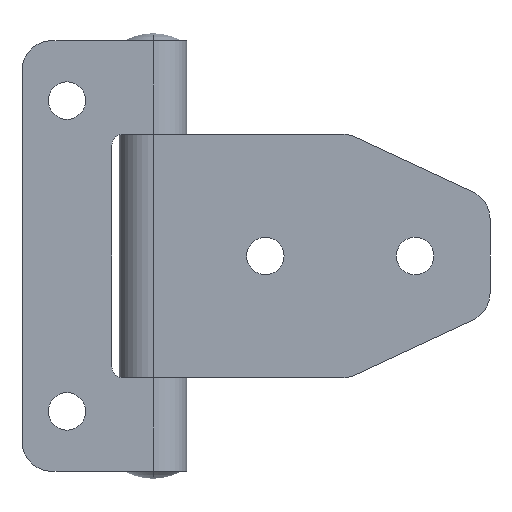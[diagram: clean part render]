
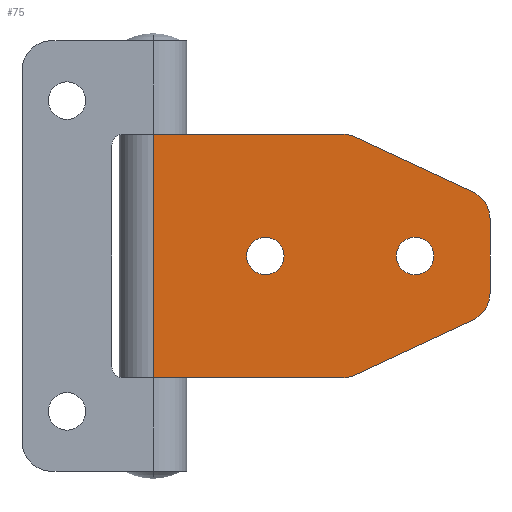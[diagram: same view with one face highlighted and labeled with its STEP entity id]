
A CAD part, front view. The second image highlights one B-rep face of the part: STEP entity #75.
In plain terms, the highlighted planar face has unit normal (0, -1, 0).
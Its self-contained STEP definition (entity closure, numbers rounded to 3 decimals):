
#75=ADVANCED_FACE('NONE',(#178,#179,#180),#181,.T.);
#178=FACE_OUTER_BOUND('',#366,.T.);
#179=FACE_BOUND('',#367,.T.);
#180=FACE_BOUND('',#368,.T.);
#181=PLANE('',#369);
#366=EDGE_LOOP('',(#631,#632,#633,#634,#635,#636,#637,#638,#639,#640));
#367=EDGE_LOOP('',(#641,#642));
#368=EDGE_LOOP('',(#643,#644));
#369=AXIS2_PLACEMENT_3D('',#645,#646,#647);
#631=ORIENTED_EDGE('',*,*,#1296,.F.);
#632=ORIENTED_EDGE('',*,*,#1297,.T.);
#633=ORIENTED_EDGE('',*,*,#1298,.T.);
#634=ORIENTED_EDGE('',*,*,#1273,.T.);
#635=ORIENTED_EDGE('',*,*,#1286,.T.);
#636=ORIENTED_EDGE('',*,*,#1299,.T.);
#637=ORIENTED_EDGE('',*,*,#1300,.F.);
#638=ORIENTED_EDGE('',*,*,#1301,.T.);
#639=ORIENTED_EDGE('',*,*,#1302,.F.);
#640=ORIENTED_EDGE('',*,*,#1303,.T.);
#641=ORIENTED_EDGE('',*,*,#1257,.F.);
#642=ORIENTED_EDGE('',*,*,#1304,.F.);
#643=ORIENTED_EDGE('',*,*,#1261,.F.);
#644=ORIENTED_EDGE('',*,*,#1305,.F.);
#645=CARTESIAN_POINT('',(90.0,-9.,57.5));
#646=DIRECTION('',(0.,-1.0,0.0));
#647=DIRECTION('',(0.0,0.0,-1.0));
#1257=EDGE_CURVE('NONE',#1492,#1493,#1494,.T.);
#1261=EDGE_CURVE('NONE',#1500,#1501,#1502,.T.);
#1273=EDGE_CURVE('NONE',#1525,#1523,#1526,.T.);
#1286=EDGE_CURVE('NONE',#1523,#1545,#1547,.T.);
#1296=EDGE_CURVE('NONE',#1560,#1561,#1562,.T.);
#1297=EDGE_CURVE('NONE',#1560,#1563,#1564,.T.);
#1298=EDGE_CURVE('NONE',#1563,#1525,#1565,.T.);
#1299=EDGE_CURVE('NONE',#1545,#1566,#1567,.T.);
#1300=EDGE_CURVE('NONE',#1568,#1566,#1569,.T.);
#1301=EDGE_CURVE('NONE',#1568,#1570,#1571,.T.);
#1302=EDGE_CURVE('NONE',#1572,#1570,#1573,.T.);
#1303=EDGE_CURVE('NONE',#1572,#1561,#1574,.T.);
#1304=EDGE_CURVE('NONE',#1493,#1492,#1575,.T.);
#1305=EDGE_CURVE('NONE',#1501,#1500,#1576,.T.);
#1492=VERTEX_POINT('NONE',#1869);
#1493=VERTEX_POINT('NONE',#1870);
#1494=CIRCLE('',#1871,5.0);
#1500=VERTEX_POINT('NONE',#1879);
#1501=VERTEX_POINT('NONE',#1880);
#1502=CIRCLE('',#1881,5.0);
#1523=VERTEX_POINT('NONE',#1907);
#1525=VERTEX_POINT('NONE',#1909);
#1526=LINE('',#1910,#1911);
#1545=VERTEX_POINT('NONE',#1934);
#1547=LINE('',#1937,#1938);
#1560=VERTEX_POINT('NONE',#1956);
#1561=VERTEX_POINT('NONE',#1957);
#1562=LINE('',#1958,#1959);
#1563=VERTEX_POINT('NONE',#1960);
#1564=CIRCLE('',#1961,8.0);
#1565=LINE('',#1962,#1963);
#1566=VERTEX_POINT('NONE',#1964);
#1567=CIRCLE('',#1965,8.0);
#1568=VERTEX_POINT('NONE',#1966);
#1569=LINE('',#1967,#1968);
#1570=VERTEX_POINT('NONE',#1969);
#1571=CIRCLE('',#1970,8.);
#1572=VERTEX_POINT('NONE',#1971);
#1573=LINE('',#1972,#1973);
#1574=CIRCLE('',#1974,8.);
#1575=CIRCLE('',#1975,5.0);
#1576=CIRCLE('',#1976,5.0);
#1869=CARTESIAN_POINT('',(25.0,-9.0,0.));
#1870=CARTESIAN_POINT('',(35.0,-9.0,0.));
#1871=AXIS2_PLACEMENT_3D('',#2359,#2360,#2361);
#1879=CARTESIAN_POINT('',(65.0,-9.,0.));
#1880=CARTESIAN_POINT('',(75.0,-9.,0.));
#1881=AXIS2_PLACEMENT_3D('',#2367,#2368,#2369);
#1907=CARTESIAN_POINT('',(0.0,-9.0,-32.5));
#1909=CARTESIAN_POINT('',(0.0,-9.0,32.5));
#1910=CARTESIAN_POINT('',(0.,-9.0,57.5));
#1911=VECTOR('',#2393,1000.0);
#1934=CARTESIAN_POINT('',(50.698,-9.0,-32.5));
#1937=CARTESIAN_POINT('',(-11.0,-9.0,-32.5));
#1938=VECTOR('',#2420,1000.0);
#1956=CARTESIAN_POINT('',(54.079,-9.,31.75));
#1957=CARTESIAN_POINT('',(85.381,-9.,17.154));
#1958=CARTESIAN_POINT('',(73.722,-9.,22.591));
#1959=VECTOR('',#2438,1000.0);
#1960=CARTESIAN_POINT('',(50.698,-9.0,32.5));
#1961=AXIS2_PLACEMENT_3D('',#2439,#2440,#2441);
#1962=CARTESIAN_POINT('',(-11.0,-9.0,32.5));
#1963=VECTOR('',#2442,1000.0);
#1964=CARTESIAN_POINT('',(54.079,-9.,-31.75));
#1965=AXIS2_PLACEMENT_3D('',#2443,#2444,#2445);
#1966=CARTESIAN_POINT('',(85.381,-9.,-17.154));
#1967=CARTESIAN_POINT('',(117.769,-9.,-2.051));
#1968=VECTOR('',#2446,1000.0);
#1969=CARTESIAN_POINT('',(90.0,-9.,-9.903));
#1970=AXIS2_PLACEMENT_3D('',#2447,#2448,#2449);
#1971=CARTESIAN_POINT('',(90.0,-9.,9.903));
#1972=CARTESIAN_POINT('',(90.0,-9.,57.5));
#1973=VECTOR('',#2450,1000.0);
#1974=AXIS2_PLACEMENT_3D('',#2451,#2452,#2453);
#1975=AXIS2_PLACEMENT_3D('',#2454,#2455,#2456);
#1976=AXIS2_PLACEMENT_3D('',#2457,#2458,#2459);
#2359=CARTESIAN_POINT('',(30.0,-9.0,0.));
#2360=DIRECTION('',(0.0,-1.0,0.0));
#2361=DIRECTION('',(1.0,0.0,0.0));
#2367=CARTESIAN_POINT('',(70.0,-9.,0.));
#2368=DIRECTION('',(0.0,-1.0,0.0));
#2369=DIRECTION('',(1.0,0.0,0.0));
#2393=DIRECTION('',(-0.0,-0.0,-1.0));
#2420=DIRECTION('',(1.0,0.0,0.0));
#2438=DIRECTION('',(0.906,0.,-0.423));
#2439=CARTESIAN_POINT('',(50.698,-9.,24.5));
#2440=DIRECTION('',(0.,-1.0,0.0));
#2441=DIRECTION('',(1.0,0.,0.0));
#2442=DIRECTION('',(-1.0,-0.0,-0.0));
#2443=CARTESIAN_POINT('',(50.698,-9.,-24.5));
#2444=DIRECTION('',(0.,-1.0,0.0));
#2445=DIRECTION('',(1.0,0.,0.0));
#2446=DIRECTION('',(-0.906,0.,-0.423));
#2447=CARTESIAN_POINT('',(82.0,-9.,-9.903));
#2448=DIRECTION('',(0.,-1.0,0.0));
#2449=DIRECTION('',(1.0,0.,0.0));
#2450=DIRECTION('',(-0.0,-0.0,-1.0));
#2451=CARTESIAN_POINT('',(82.0,-9.,9.903));
#2452=DIRECTION('',(0.,-1.0,0.0));
#2453=DIRECTION('',(1.0,0.,0.0));
#2454=CARTESIAN_POINT('',(30.0,-9.0,0.));
#2455=DIRECTION('',(0.0,-1.0,0.0));
#2456=DIRECTION('',(1.0,0.0,0.0));
#2457=CARTESIAN_POINT('',(70.0,-9.,0.));
#2458=DIRECTION('',(0.0,-1.0,0.0));
#2459=DIRECTION('',(1.0,0.0,0.0));
